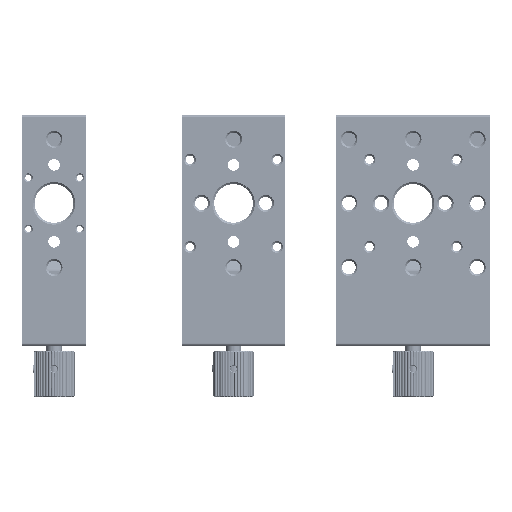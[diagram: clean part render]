
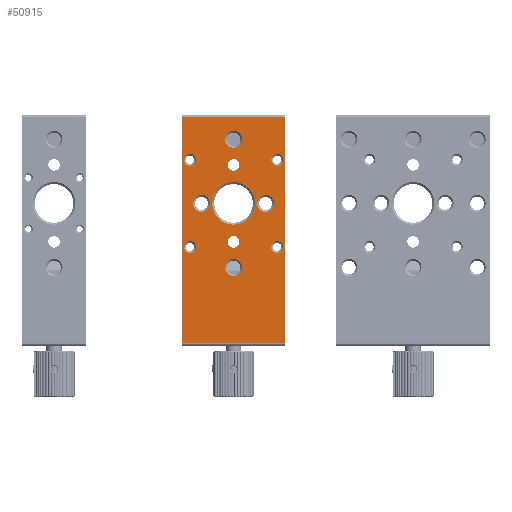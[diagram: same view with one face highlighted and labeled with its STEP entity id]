
A CAD part, top view. The second image highlights one B-rep face of the part: STEP entity #50915.
In plain terms, the highlighted planar face has unit normal (0, 0, 1).
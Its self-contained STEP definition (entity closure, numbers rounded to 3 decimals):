
#40688=DIRECTION('',(0.,-1.,0.));
#40689=VECTOR('',#40688,88.);
#40690=CARTESIAN_POINT('',(-20.,89.,0.));
#40691=LINE('',#40690,#40689);
#40715=DIRECTION('',(0.,-1.,0.));
#40716=VECTOR('',#40715,88.);
#40717=CARTESIAN_POINT('',(20.,89.,0.));
#40718=LINE('',#40717,#40716);
#40798=CARTESIAN_POINT('',(0.,70.5,0.));
#40799=DIRECTION('',(0.,0.,-1.));
#40800=DIRECTION('',(-1.,0.,0.));
#40801=AXIS2_PLACEMENT_3D('',#40798,#40799,#40800);
#40803=CARTESIAN_POINT('',(0.,70.5,0.));
#40804=DIRECTION('',(0.,0.,-1.));
#40805=DIRECTION('',(1.,0.,0.));
#40806=AXIS2_PLACEMENT_3D('',#40803,#40804,#40805);
#40808=CARTESIAN_POINT('',(0.,40.5,0.));
#40809=DIRECTION('',(0.,0.,-1.));
#40810=DIRECTION('',(-1.,0.,0.));
#40811=AXIS2_PLACEMENT_3D('',#40808,#40809,#40810);
#40813=CARTESIAN_POINT('',(0.,40.5,0.));
#40814=DIRECTION('',(0.,0.,-1.));
#40815=DIRECTION('',(1.,0.,0.));
#40816=AXIS2_PLACEMENT_3D('',#40813,#40814,#40815);
#40818=CARTESIAN_POINT('',(0.,80.5,0.));
#40819=DIRECTION('',(0.,0.,-1.));
#40820=DIRECTION('',(0.,-1.,0.));
#40821=AXIS2_PLACEMENT_3D('',#40818,#40819,#40820);
#40823=CARTESIAN_POINT('',(0.,80.5,0.));
#40824=DIRECTION('',(0.,0.,-1.));
#40825=DIRECTION('',(0.,1.,0.));
#40826=AXIS2_PLACEMENT_3D('',#40823,#40824,#40825);
#40828=CARTESIAN_POINT('',(0.,30.5,0.));
#40829=DIRECTION('',(0.,0.,-1.));
#40830=DIRECTION('',(0.,-1.,0.));
#40831=AXIS2_PLACEMENT_3D('',#40828,#40829,#40830);
#40833=CARTESIAN_POINT('',(0.,30.5,0.));
#40834=DIRECTION('',(0.,0.,-1.));
#40835=DIRECTION('',(0.,1.,0.));
#40836=AXIS2_PLACEMENT_3D('',#40833,#40834,#40835);
#40838=CARTESIAN_POINT('',(0.,55.5,0.));
#40839=DIRECTION('',(0.,0.,-1.));
#40840=DIRECTION('',(1.,0.,0.));
#40841=AXIS2_PLACEMENT_3D('',#40838,#40839,#40840);
#40843=CARTESIAN_POINT('',(0.,55.5,0.));
#40844=DIRECTION('',(0.,0.,-1.));
#40845=DIRECTION('',(-1.,0.,0.));
#40846=AXIS2_PLACEMENT_3D('',#40843,#40844,#40845);
#40848=DIRECTION('',(-1.,0.,0.));
#40849=VECTOR('',#40848,40.);
#40850=CARTESIAN_POINT('',(20.,1.,0.));
#40851=LINE('',#40850,#40849);
#40852=DIRECTION('',(-1.,0.,0.));
#40853=VECTOR('',#40852,40.);
#40854=CARTESIAN_POINT('',(20.,89.,0.));
#40855=LINE('',#40854,#40853);
#40856=CARTESIAN_POINT('',(17.,72.5,0.));
#40857=DIRECTION('',(0.,0.,-1.));
#40858=DIRECTION('',(0.,-1.,0.));
#40859=AXIS2_PLACEMENT_3D('',#40856,#40857,#40858);
#40861=CARTESIAN_POINT('',(17.,72.5,0.));
#40862=DIRECTION('',(0.,0.,-1.));
#40863=DIRECTION('',(0.,1.,0.));
#40864=AXIS2_PLACEMENT_3D('',#40861,#40862,#40863);
#40866=CARTESIAN_POINT('',(-17.,72.5,0.));
#40867=DIRECTION('',(0.,0.,-1.));
#40868=DIRECTION('',(0.,-1.,0.));
#40869=AXIS2_PLACEMENT_3D('',#40866,#40867,#40868);
#40871=CARTESIAN_POINT('',(-17.,72.5,0.));
#40872=DIRECTION('',(0.,0.,-1.));
#40873=DIRECTION('',(0.,1.,0.));
#40874=AXIS2_PLACEMENT_3D('',#40871,#40872,#40873);
#40876=CARTESIAN_POINT('',(12.5,55.5,0.));
#40877=DIRECTION('',(0.,0.,-1.));
#40878=DIRECTION('',(0.,-1.,0.));
#40879=AXIS2_PLACEMENT_3D('',#40876,#40877,#40878);
#40881=CARTESIAN_POINT('',(12.5,55.5,0.));
#40882=DIRECTION('',(0.,0.,-1.));
#40883=DIRECTION('',(0.,1.,0.));
#40884=AXIS2_PLACEMENT_3D('',#40881,#40882,#40883);
#40886=CARTESIAN_POINT('',(-12.5,55.5,0.));
#40887=DIRECTION('',(0.,0.,-1.));
#40888=DIRECTION('',(0.,-1.,0.));
#40889=AXIS2_PLACEMENT_3D('',#40886,#40887,#40888);
#40891=CARTESIAN_POINT('',(-12.5,55.5,0.));
#40892=DIRECTION('',(0.,0.,-1.));
#40893=DIRECTION('',(0.,1.,0.));
#40894=AXIS2_PLACEMENT_3D('',#40891,#40892,#40893);
#40896=CARTESIAN_POINT('',(-17.,38.5,0.));
#40897=DIRECTION('',(0.,0.,-1.));
#40898=DIRECTION('',(0.,-1.,0.));
#40899=AXIS2_PLACEMENT_3D('',#40896,#40897,#40898);
#40901=CARTESIAN_POINT('',(-17.,38.5,0.));
#40902=DIRECTION('',(0.,0.,-1.));
#40903=DIRECTION('',(0.,1.,0.));
#40904=AXIS2_PLACEMENT_3D('',#40901,#40902,#40903);
#40906=CARTESIAN_POINT('',(17.,38.5,0.));
#40907=DIRECTION('',(0.,0.,-1.));
#40908=DIRECTION('',(0.,-1.,0.));
#40909=AXIS2_PLACEMENT_3D('',#40906,#40907,#40908);
#40911=CARTESIAN_POINT('',(17.,38.5,0.));
#40912=DIRECTION('',(0.,0.,-1.));
#40913=DIRECTION('',(0.,1.,0.));
#40914=AXIS2_PLACEMENT_3D('',#40911,#40912,#40913);
#49981=CARTESIAN_POINT('',(-2.25,70.5,0.));
#49982=CARTESIAN_POINT('',(2.25,70.5,0.));
#49983=VERTEX_POINT('',#49981);
#49984=VERTEX_POINT('',#49982);
#49985=CARTESIAN_POINT('',(-2.25,40.5,0.));
#49986=CARTESIAN_POINT('',(2.25,40.5,0.));
#49987=VERTEX_POINT('',#49985);
#49988=VERTEX_POINT('',#49986);
#50179=CARTESIAN_POINT('',(8.3,55.5,0.));
#50180=CARTESIAN_POINT('',(-8.3,55.5,0.));
#50181=VERTEX_POINT('',#50179);
#50182=VERTEX_POINT('',#50180);
#50219=CARTESIAN_POINT('',(0.,77.2,0.));
#50220=CARTESIAN_POINT('',(0.,83.8,0.));
#50221=VERTEX_POINT('',#50219);
#50222=VERTEX_POINT('',#50220);
#50227=CARTESIAN_POINT('',(0.,27.2,0.));
#50228=CARTESIAN_POINT('',(0.,33.8,0.));
#50229=VERTEX_POINT('',#50227);
#50230=VERTEX_POINT('',#50228);
#50272=CARTESIAN_POINT('',(-20.,1.,0.));
#50274=VERTEX_POINT('',#50272);
#50275=CARTESIAN_POINT('',(20.,1.,0.));
#50276=VERTEX_POINT('',#50275);
#50279=CARTESIAN_POINT('',(-20.,89.,0.));
#50281=VERTEX_POINT('',#50279);
#50284=CARTESIAN_POINT('',(20.,89.,0.));
#50286=VERTEX_POINT('',#50284);
#50567=CARTESIAN_POINT('',(17.,70.2,0.));
#50568=CARTESIAN_POINT('',(17.,74.8,0.));
#50569=VERTEX_POINT('',#50567);
#50570=VERTEX_POINT('',#50568);
#50575=CARTESIAN_POINT('',(-17.,70.2,0.));
#50576=CARTESIAN_POINT('',(-17.,74.8,0.));
#50577=VERTEX_POINT('',#50575);
#50578=VERTEX_POINT('',#50576);
#50583=CARTESIAN_POINT('',(12.5,52.2,0.));
#50584=CARTESIAN_POINT('',(12.5,58.8,0.));
#50585=VERTEX_POINT('',#50583);
#50586=VERTEX_POINT('',#50584);
#50591=CARTESIAN_POINT('',(-12.5,52.2,0.));
#50592=CARTESIAN_POINT('',(-12.5,58.8,0.));
#50593=VERTEX_POINT('',#50591);
#50594=VERTEX_POINT('',#50592);
#50599=CARTESIAN_POINT('',(-17.,36.2,0.));
#50600=CARTESIAN_POINT('',(-17.,40.8,0.));
#50601=VERTEX_POINT('',#50599);
#50602=VERTEX_POINT('',#50600);
#50607=CARTESIAN_POINT('',(17.,36.2,0.));
#50608=CARTESIAN_POINT('',(17.,40.8,0.));
#50609=VERTEX_POINT('',#50607);
#50610=VERTEX_POINT('',#50608);
#50837=CARTESIAN_POINT('',(-20.,90.,0.));
#50838=DIRECTION('',(0.,0.,1.));
#50839=DIRECTION('',(0.,-1.,0.));
#50840=AXIS2_PLACEMENT_3D('',#50837,#50838,#50839);
#50841=PLANE('',#50840);
#50842=ORIENTED_EDGE('',*,*,#50830,.T.);
#50843=ORIENTED_EDGE('',*,*,#50736,.F.);
#50845=ORIENTED_EDGE('',*,*,#50844,.F.);
#50846=ORIENTED_EDGE('',*,*,#50770,.T.);
#50847=EDGE_LOOP('',(#50842,#50843,#50845,#50846));
#50848=FACE_OUTER_BOUND('',#50847,.F.);
#50850=ORIENTED_EDGE('',*,*,#50849,.F.);
#50852=ORIENTED_EDGE('',*,*,#50851,.F.);
#50853=EDGE_LOOP('',(#50850,#50852));
#50854=FACE_BOUND('',#50853,.F.);
#50856=ORIENTED_EDGE('',*,*,#50855,.F.);
#50858=ORIENTED_EDGE('',*,*,#50857,.F.);
#50859=EDGE_LOOP('',(#50856,#50858));
#50860=FACE_BOUND('',#50859,.F.);
#50862=ORIENTED_EDGE('',*,*,#50861,.F.);
#50864=ORIENTED_EDGE('',*,*,#50863,.F.);
#50865=EDGE_LOOP('',(#50862,#50864));
#50866=FACE_BOUND('',#50865,.F.);
#50868=ORIENTED_EDGE('',*,*,#50867,.F.);
#50870=ORIENTED_EDGE('',*,*,#50869,.F.);
#50871=EDGE_LOOP('',(#50868,#50870));
#50872=FACE_BOUND('',#50871,.F.);
#50874=ORIENTED_EDGE('',*,*,#50873,.F.);
#50876=ORIENTED_EDGE('',*,*,#50875,.F.);
#50877=EDGE_LOOP('',(#50874,#50876));
#50878=FACE_BOUND('',#50877,.F.);
#50880=ORIENTED_EDGE('',*,*,#50879,.F.);
#50882=ORIENTED_EDGE('',*,*,#50881,.F.);
#50883=EDGE_LOOP('',(#50880,#50882));
#50884=FACE_BOUND('',#50883,.F.);
#50886=ORIENTED_EDGE('',*,*,#50885,.F.);
#50888=ORIENTED_EDGE('',*,*,#50887,.F.);
#50889=EDGE_LOOP('',(#50886,#50888));
#50890=FACE_BOUND('',#50889,.F.);
#50892=ORIENTED_EDGE('',*,*,#50891,.F.);
#50894=ORIENTED_EDGE('',*,*,#50893,.F.);
#50895=EDGE_LOOP('',(#50892,#50894));
#50896=FACE_BOUND('',#50895,.F.);
#50898=ORIENTED_EDGE('',*,*,#50897,.F.);
#50900=ORIENTED_EDGE('',*,*,#50899,.F.);
#50901=EDGE_LOOP('',(#50898,#50900));
#50902=FACE_BOUND('',#50901,.F.);
#50904=ORIENTED_EDGE('',*,*,#50903,.F.);
#50906=ORIENTED_EDGE('',*,*,#50905,.F.);
#50907=EDGE_LOOP('',(#50904,#50906));
#50908=FACE_BOUND('',#50907,.F.);
#50910=ORIENTED_EDGE('',*,*,#50909,.F.);
#50912=ORIENTED_EDGE('',*,*,#50911,.F.);
#50913=EDGE_LOOP('',(#50910,#50912));
#50914=FACE_BOUND('',#50913,.F.);
#50915=ADVANCED_FACE('',(#50848,#50854,#50860,#50866,#50872,#50878,#50884,
#50890,#50896,#50902,#50908,#50914),#50841,.T.);
#40802=CIRCLE('',#40801,2.25);
#40807=CIRCLE('',#40806,2.25);
#40812=CIRCLE('',#40811,2.25);
#40817=CIRCLE('',#40816,2.25);
#40822=CIRCLE('',#40821,3.3);
#40827=CIRCLE('',#40826,3.3);
#40832=CIRCLE('',#40831,3.3);
#40837=CIRCLE('',#40836,3.3);
#40842=CIRCLE('',#40841,8.3);
#40847=CIRCLE('',#40846,8.3);
#40860=CIRCLE('',#40859,2.3);
#40865=CIRCLE('',#40864,2.3);
#40870=CIRCLE('',#40869,2.3);
#40875=CIRCLE('',#40874,2.3);
#40880=CIRCLE('',#40879,3.3);
#40885=CIRCLE('',#40884,3.3);
#40890=CIRCLE('',#40889,3.3);
#40895=CIRCLE('',#40894,3.3);
#40900=CIRCLE('',#40899,2.3);
#40905=CIRCLE('',#40904,2.3);
#40910=CIRCLE('',#40909,2.3);
#40915=CIRCLE('',#40914,2.3);
#50736=EDGE_CURVE('',#50281,#50274,#40691,.T.);
#50770=EDGE_CURVE('',#50286,#50276,#40718,.T.);
#50830=EDGE_CURVE('',#50276,#50274,#40851,.T.);
#50844=EDGE_CURVE('',#50286,#50281,#40855,.T.);
#50849=EDGE_CURVE('',#49987,#49988,#40812,.T.);
#50851=EDGE_CURVE('',#49988,#49987,#40817,.T.);
#50855=EDGE_CURVE('',#50221,#50222,#40822,.T.);
#50857=EDGE_CURVE('',#50222,#50221,#40827,.T.);
#50861=EDGE_CURVE('',#50229,#50230,#40832,.T.);
#50863=EDGE_CURVE('',#50230,#50229,#40837,.T.);
#50867=EDGE_CURVE('',#50181,#50182,#40842,.T.);
#50869=EDGE_CURVE('',#50182,#50181,#40847,.T.);
#50873=EDGE_CURVE('',#49983,#49984,#40802,.T.);
#50875=EDGE_CURVE('',#49984,#49983,#40807,.T.);
#50879=EDGE_CURVE('',#50569,#50570,#40860,.T.);
#50881=EDGE_CURVE('',#50570,#50569,#40865,.T.);
#50885=EDGE_CURVE('',#50577,#50578,#40870,.T.);
#50887=EDGE_CURVE('',#50578,#50577,#40875,.T.);
#50891=EDGE_CURVE('',#50585,#50586,#40880,.T.);
#50893=EDGE_CURVE('',#50586,#50585,#40885,.T.);
#50897=EDGE_CURVE('',#50593,#50594,#40890,.T.);
#50899=EDGE_CURVE('',#50594,#50593,#40895,.T.);
#50903=EDGE_CURVE('',#50601,#50602,#40900,.T.);
#50905=EDGE_CURVE('',#50602,#50601,#40905,.T.);
#50909=EDGE_CURVE('',#50609,#50610,#40910,.T.);
#50911=EDGE_CURVE('',#50610,#50609,#40915,.T.);
